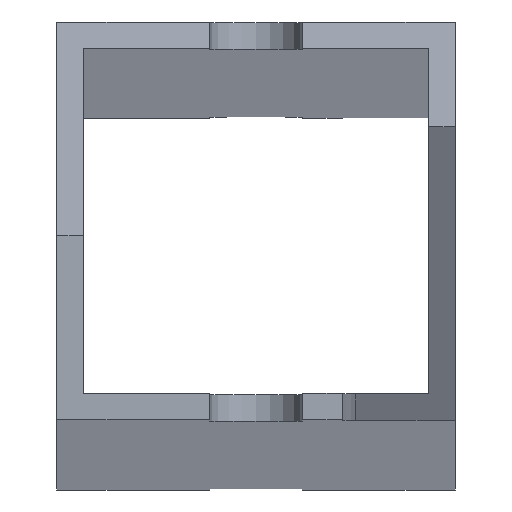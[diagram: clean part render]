
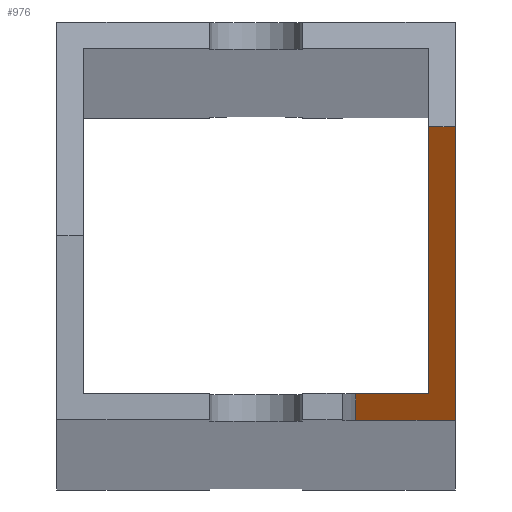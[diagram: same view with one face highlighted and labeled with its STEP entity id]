
A CAD part, top view. The second image highlights one B-rep face of the part: STEP entity #976.
In plain terms, the highlighted planar face has unit normal (0, -0.497, 0.868).
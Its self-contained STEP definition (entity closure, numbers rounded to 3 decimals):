
#32 = PLANE('',#33);
#33 = AXIS2_PLACEMENT_3D('',#34,#35,#36);
#34 = CARTESIAN_POINT('',(-30.,-30.,0.));
#35 = DIRECTION('',(0.,1.,0.));
#36 = DIRECTION('',(1.,0.,0.));
#246 = VERTEX_POINT('',#247);
#247 = CARTESIAN_POINT('',(15.,-30.,6031.569));
#262 = CYLINDRICAL_SURFACE('',#263,2.);
#263 = AXIS2_PLACEMENT_3D('',#264,#265,#266);
#264 = CARTESIAN_POINT('',(15.,-2620.899,4549.015));
#265 = DIRECTION('',(0.,0.868,0.497));
#266 = DIRECTION('',(1.,0.,0.));
#279 = EDGE_CURVE('',#246,#280,#282,.T.);
#280 = VERTEX_POINT('',#281);
#281 = CARTESIAN_POINT('',(30.,-30.,6031.569));
#282 = SURFACE_CURVE('',#283,(#287,#293),.PCURVE_S1.);
#283 = LINE('',#284,#285);
#284 = CARTESIAN_POINT('',(22.5,-30.,6031.569));
#285 = VECTOR('',#286,1.);
#286 = DIRECTION('',(1.,0.,-0.));
#287 = PCURVE('',#32,#288);
#288 = DEFINITIONAL_REPRESENTATION('',(#289),#292);
#289 = B_SPLINE_CURVE_WITH_KNOTS('',1,(#290,#291),.UNSPECIFIED.,.F.,.F.,
  (2,2),(-7.5,7.5),.PIECEWISE_BEZIER_KNOTS.);
#290 = CARTESIAN_POINT('',(45.,-6031.569));
#291 = CARTESIAN_POINT('',(60.,-6031.569));
#292 = ( GEOMETRIC_REPRESENTATION_CONTEXT(2) 
PARAMETRIC_REPRESENTATION_CONTEXT() REPRESENTATION_CONTEXT('2D SPACE',''
  ) );
#293 = PCURVE('',#294,#299);
#294 = PLANE('',#295);
#295 = AXIS2_PLACEMENT_3D('',#296,#297,#298);
#296 = CARTESIAN_POINT('',(75.,-2619.904,4547.279));
#297 = DIRECTION('',(0.,-0.497,0.868));
#298 = DIRECTION('',(-1.,0.,0.));
#299 = DEFINITIONAL_REPRESENTATION('',(#300),#303);
#300 = B_SPLINE_CURVE_WITH_KNOTS('',1,(#301,#302),.UNSPECIFIED.,.F.,.F.,
  (2,2),(-7.5,7.5),.PIECEWISE_BEZIER_KNOTS.);
#301 = CARTESIAN_POINT('',(60.,-2985.083));
#302 = CARTESIAN_POINT('',(45.,-2985.083));
#303 = ( GEOMETRIC_REPRESENTATION_CONTEXT(2) 
PARAMETRIC_REPRESENTATION_CONTEXT() REPRESENTATION_CONTEXT('2D SPACE',''
  ) );
#321 = PLANE('',#322);
#322 = AXIS2_PLACEMENT_3D('',#323,#324,#325);
#323 = CARTESIAN_POINT('',(30.,-30.,0.));
#324 = DIRECTION('',(-1.,0.,0.));
#325 = DIRECTION('',(0.,1.,0.));
#528 = PLANE('',#529);
#529 = AXIS2_PLACEMENT_3D('',#530,#531,#532);
#530 = CARTESIAN_POINT('',(-26.,-26.,0.));
#531 = DIRECTION('',(0.,1.,0.));
#532 = DIRECTION('',(1.,0.,0.));
#867 = PLANE('',#868);
#868 = AXIS2_PLACEMENT_3D('',#869,#870,#871);
#869 = CARTESIAN_POINT('',(26.,-26.,0.));
#870 = DIRECTION('',(-1.,0.,0.));
#871 = DIRECTION('',(0.,1.,0.));
#883 = EDGE_CURVE('',#280,#884,#886,.T.);
#884 = VERTEX_POINT('',#885);
#885 = CARTESIAN_POINT('',(30.,14.176,6056.887));
#886 = SURFACE_CURVE('',#887,(#891,#897),.PCURVE_S1.);
#887 = LINE('',#888,#889);
#888 = CARTESIAN_POINT('',(30.,-2625.99,4543.792));
#889 = VECTOR('',#890,1.);
#890 = DIRECTION('',(0.,0.868,0.497));
#891 = PCURVE('',#321,#892);
#892 = DEFINITIONAL_REPRESENTATION('',(#893),#896);
#893 = B_SPLINE_CURVE_WITH_KNOTS('',1,(#894,#895),.UNSPECIFIED.,.F.,.F.,
  (2,2),(2992.097,3057.014),
  .PIECEWISE_BEZIER_KNOTS.);
#894 = CARTESIAN_POINT('',(0.,-6031.569));
#895 = CARTESIAN_POINT('',(56.323,-6063.848));
#896 = ( GEOMETRIC_REPRESENTATION_CONTEXT(2) 
PARAMETRIC_REPRESENTATION_CONTEXT() REPRESENTATION_CONTEXT('2D SPACE',''
  ) );
#897 = PCURVE('',#294,#898);
#898 = DEFINITIONAL_REPRESENTATION('',(#899),#902);
#899 = B_SPLINE_CURVE_WITH_KNOTS('',1,(#900,#901),.UNSPECIFIED.,.F.,.F.,
  (2,2),(2992.097,3057.014),
  .PIECEWISE_BEZIER_KNOTS.);
#900 = CARTESIAN_POINT('',(45.,-2985.083));
#901 = CARTESIAN_POINT('',(45.,-3050.));
#902 = ( GEOMETRIC_REPRESENTATION_CONTEXT(2) 
PARAMETRIC_REPRESENTATION_CONTEXT() REPRESENTATION_CONTEXT('2D SPACE',''
  ) );
#919 = PLANE('',#920);
#920 = AXIS2_PLACEMENT_3D('',#921,#922,#923);
#921 = CARTESIAN_POINT('',(45.,-1.735,6084.651));
#922 = DIRECTION('',(0.,-0.868,-0.497));
#923 = DIRECTION('',(-1.,0.,0.));
#976 = ADVANCED_FACE('',(#977),#294,.T.);
#977 = FACE_BOUND('',#978,.T.);
#978 = EDGE_LOOP('',(#979,#1002,#1003,#1004,#1025,#1046));
#979 = ORIENTED_EDGE('',*,*,#980,.F.);
#980 = EDGE_CURVE('',#246,#981,#983,.T.);
#981 = VERTEX_POINT('',#982);
#982 = CARTESIAN_POINT('',(15.,-26.,6033.862));
#983 = SURFACE_CURVE('',#984,(#988,#995),.PCURVE_S1.);
#984 = LINE('',#985,#986);
#985 = CARTESIAN_POINT('',(15.,-2619.904,4547.279));
#986 = VECTOR('',#987,1.);
#987 = DIRECTION('',(0.,0.868,0.497));
#988 = PCURVE('',#294,#989);
#989 = DEFINITIONAL_REPRESENTATION('',(#990),#994);
#990 = LINE('',#991,#992);
#991 = CARTESIAN_POINT('',(60.,0.));
#992 = VECTOR('',#993,1.);
#993 = DIRECTION('',(0.,-1.));
#994 = ( GEOMETRIC_REPRESENTATION_CONTEXT(2) 
PARAMETRIC_REPRESENTATION_CONTEXT() REPRESENTATION_CONTEXT('2D SPACE',''
  ) );
#995 = PCURVE('',#262,#996);
#996 = DEFINITIONAL_REPRESENTATION('',(#997),#1001);
#997 = LINE('',#998,#999);
#998 = CARTESIAN_POINT('',(1.571,0.));
#999 = VECTOR('',#1000,1.);
#1000 = DIRECTION('',(0.,1.));
#1001 = ( GEOMETRIC_REPRESENTATION_CONTEXT(2) 
PARAMETRIC_REPRESENTATION_CONTEXT() REPRESENTATION_CONTEXT('2D SPACE',''
  ) );
#1002 = ORIENTED_EDGE('',*,*,#279,.T.);
#1003 = ORIENTED_EDGE('',*,*,#883,.T.);
#1004 = ORIENTED_EDGE('',*,*,#1005,.F.);
#1005 = EDGE_CURVE('',#1006,#884,#1008,.T.);
#1006 = VERTEX_POINT('',#1007);
#1007 = CARTESIAN_POINT('',(26.,14.176,6056.887));
#1008 = SURFACE_CURVE('',#1009,(#1013,#1019),.PCURVE_S1.);
#1009 = LINE('',#1010,#1011);
#1010 = CARTESIAN_POINT('',(60.,14.176,6056.887));
#1011 = VECTOR('',#1012,1.);
#1012 = DIRECTION('',(1.,0.,0.));
#1013 = PCURVE('',#294,#1014);
#1014 = DEFINITIONAL_REPRESENTATION('',(#1015),#1018);
#1015 = B_SPLINE_CURVE_WITH_KNOTS('',1,(#1016,#1017),.UNSPECIFIED.,.F.,
  .F.,(2,2),(-45.,-30.),.PIECEWISE_BEZIER_KNOTS.);
#1016 = CARTESIAN_POINT('',(60.,-3036.));
#1017 = CARTESIAN_POINT('',(45.,-3036.));
#1018 = ( GEOMETRIC_REPRESENTATION_CONTEXT(2) 
PARAMETRIC_REPRESENTATION_CONTEXT() REPRESENTATION_CONTEXT('2D SPACE',''
  ) );
#1019 = PCURVE('',#919,#1020);
#1020 = DEFINITIONAL_REPRESENTATION('',(#1021),#1024);
#1021 = B_SPLINE_CURVE_WITH_KNOTS('',1,(#1022,#1023),.UNSPECIFIED.,.F.,
  .F.,(2,2),(-45.,-30.),.PIECEWISE_BEZIER_KNOTS.);
#1022 = CARTESIAN_POINT('',(30.,32.));
#1023 = CARTESIAN_POINT('',(15.,32.));
#1024 = ( GEOMETRIC_REPRESENTATION_CONTEXT(2) 
PARAMETRIC_REPRESENTATION_CONTEXT() REPRESENTATION_CONTEXT('2D SPACE',''
  ) );
#1025 = ORIENTED_EDGE('',*,*,#1026,.F.);
#1026 = EDGE_CURVE('',#1027,#1006,#1029,.T.);
#1027 = VERTEX_POINT('',#1028);
#1028 = CARTESIAN_POINT('',(26.,-26.,6033.862));
#1029 = SURFACE_CURVE('',#1030,(#1034,#1040),.PCURVE_S1.);
#1030 = LINE('',#1031,#1032);
#1031 = CARTESIAN_POINT('',(26.,-2624.484,4544.654)
  );
#1032 = VECTOR('',#1033,1.);
#1033 = DIRECTION('',(0.,0.868,0.497));
#1034 = PCURVE('',#294,#1035);
#1035 = DEFINITIONAL_REPRESENTATION('',(#1036),#1039);
#1036 = B_SPLINE_CURVE_WITH_KNOTS('',1,(#1037,#1038),.UNSPECIFIED.,.F.,
  .F.,(2,2),(2994.972,3054.907),
  .PIECEWISE_BEZIER_KNOTS.);
#1037 = CARTESIAN_POINT('',(49.,-2989.693));
#1038 = CARTESIAN_POINT('',(49.,-3049.628));
#1039 = ( GEOMETRIC_REPRESENTATION_CONTEXT(2) 
PARAMETRIC_REPRESENTATION_CONTEXT() REPRESENTATION_CONTEXT('2D SPACE',''
  ) );
#1040 = PCURVE('',#867,#1041);
#1041 = DEFINITIONAL_REPRESENTATION('',(#1042),#1045);
#1042 = B_SPLINE_CURVE_WITH_KNOTS('',1,(#1043,#1044),.UNSPECIFIED.,.F.,
  .F.,(2,2),(2994.972,3054.907),
  .PIECEWISE_BEZIER_KNOTS.);
#1043 = CARTESIAN_POINT('',(0.,-6033.862));
#1044 = CARTESIAN_POINT('',(52.,-6063.663));
#1045 = ( GEOMETRIC_REPRESENTATION_CONTEXT(2) 
PARAMETRIC_REPRESENTATION_CONTEXT() REPRESENTATION_CONTEXT('2D SPACE',''
  ) );
#1046 = ORIENTED_EDGE('',*,*,#1047,.F.);
#1047 = EDGE_CURVE('',#981,#1027,#1048,.T.);
#1048 = SURFACE_CURVE('',#1049,(#1053,#1059),.PCURVE_S1.);
#1049 = LINE('',#1050,#1051);
#1050 = CARTESIAN_POINT('',(24.5,-26.,6033.862));
#1051 = VECTOR('',#1052,1.);
#1052 = DIRECTION('',(1.,0.,-0.));
#1053 = PCURVE('',#294,#1054);
#1054 = DEFINITIONAL_REPRESENTATION('',(#1055),#1058);
#1055 = B_SPLINE_CURVE_WITH_KNOTS('',1,(#1056,#1057),.UNSPECIFIED.,.F.,
  .F.,(2,2),(-9.5,1.5),.PIECEWISE_BEZIER_KNOTS.);
#1056 = CARTESIAN_POINT('',(60.,-2989.693));
#1057 = CARTESIAN_POINT('',(49.,-2989.693));
#1058 = ( GEOMETRIC_REPRESENTATION_CONTEXT(2) 
PARAMETRIC_REPRESENTATION_CONTEXT() REPRESENTATION_CONTEXT('2D SPACE',''
  ) );
#1059 = PCURVE('',#528,#1060);
#1060 = DEFINITIONAL_REPRESENTATION('',(#1061),#1064);
#1061 = B_SPLINE_CURVE_WITH_KNOTS('',1,(#1062,#1063),.UNSPECIFIED.,.F.,
  .F.,(2,2),(-9.5,1.5),.PIECEWISE_BEZIER_KNOTS.);
#1062 = CARTESIAN_POINT('',(41.,-6033.862));
#1063 = CARTESIAN_POINT('',(52.,-6033.862));
#1064 = ( GEOMETRIC_REPRESENTATION_CONTEXT(2) 
PARAMETRIC_REPRESENTATION_CONTEXT() REPRESENTATION_CONTEXT('2D SPACE',''
  ) );
